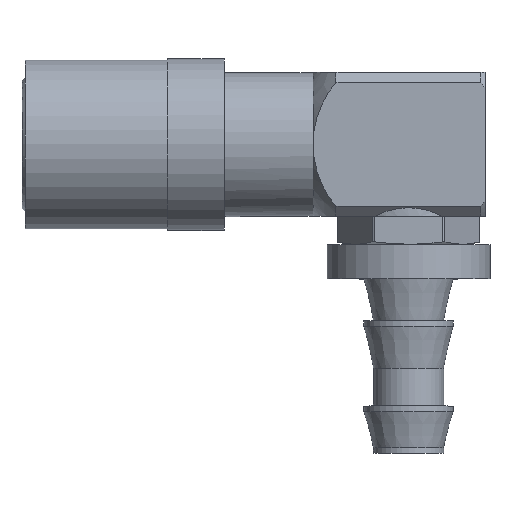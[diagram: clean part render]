
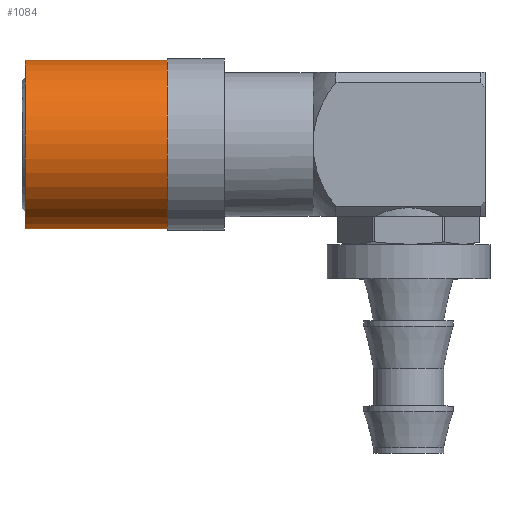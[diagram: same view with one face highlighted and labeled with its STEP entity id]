
A CAD part, top view. The second image highlights one B-rep face of the part: STEP entity #1084.
In plain terms, the highlighted cylindrical face has radius 11.303 mm (diameter 22.606 mm), a full revolution.
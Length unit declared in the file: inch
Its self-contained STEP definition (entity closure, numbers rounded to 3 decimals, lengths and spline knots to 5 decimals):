
#326=ORIENTED_EDGE('',*,*,#593,.F.);
#327=ORIENTED_EDGE('',*,*,#592,.T.);
#592=EDGE_CURVE('',#717,#717,#801,.T.);
#593=EDGE_CURVE('',#718,#718,#802,.T.);
#717=VERTEX_POINT('',#1883);
#718=VERTEX_POINT('',#1886);
#801=CIRCLE('',#1220,0.445);
#802=CIRCLE('',#1222,0.445);
#862=EDGE_LOOP('',(#326));
#863=EDGE_LOOP('',(#327));
#964=FACE_BOUND('',#862,.T.);
#965=FACE_BOUND('',#863,.T.);
#1041=CYLINDRICAL_SURFACE('',#1221,0.445);
#1084=ADVANCED_FACE('',(#964,#965),#1041,.T.);
#1220=AXIS2_PLACEMENT_3D('',#1882,#1495,#1496);
#1221=AXIS2_PLACEMENT_3D('',#1884,#1497,#1498);
#1222=AXIS2_PLACEMENT_3D('',#1885,#1499,#1500);
#1495=DIRECTION('',(1.,0.,0.));
#1496=DIRECTION('',(0.,0.,-1.));
#1497=DIRECTION('',(1.,0.,0.));
#1498=DIRECTION('',(0.,0.,-1.));
#1499=DIRECTION('',(1.,0.,0.));
#1500=DIRECTION('',(0.,0.,-1.));
#1882=CARTESIAN_POINT('',(0.,0.,0.));
#1883=CARTESIAN_POINT('',(0.,0.,-0.445));
#1884=CARTESIAN_POINT('',(2.65103,0.,0.));
#1885=CARTESIAN_POINT('',(0.75,0.,0.));
#1886=CARTESIAN_POINT('',(0.75,0.,-0.445));
